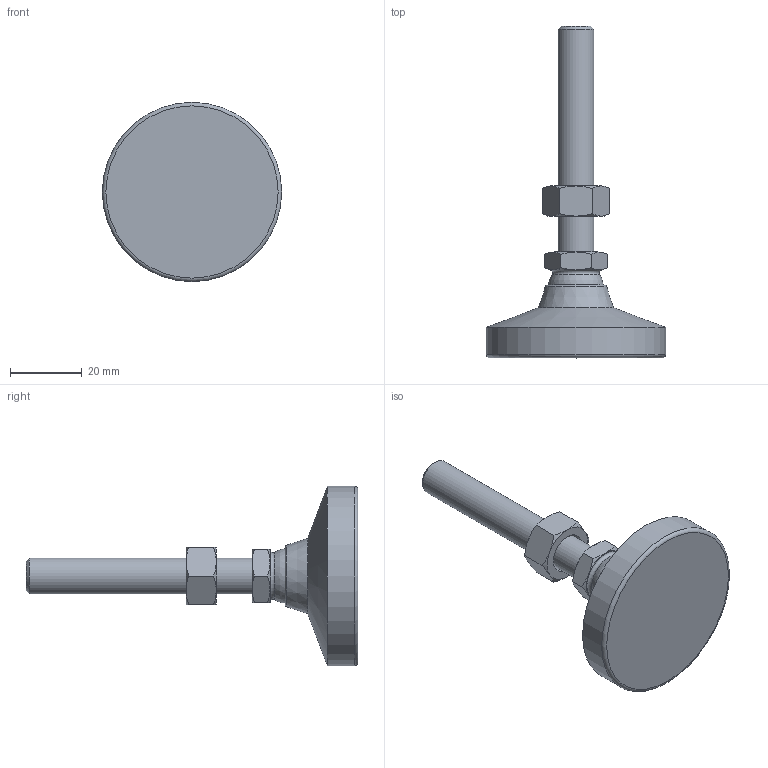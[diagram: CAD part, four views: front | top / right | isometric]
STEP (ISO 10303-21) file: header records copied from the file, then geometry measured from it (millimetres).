
FILE_DESCRIPTION( ( 'STEP AP214' ), ' ' );
FILE_NAME( 'O:/ganter_2015/teil_2/2_5/gn343_2/gn343_2_kre/Levelling foot with threaded stud GN 343.2-50-M10-63-KRE-(0).stp', '2015-10-26T09:19:28', ( '' ), ( '' ), ' ', 'PARTsolutions', ' ' );
FILE_SCHEMA( ( 'AUTOMOTIVE_DESIGN { 1 0 10303 214 1 1 1 1 }' ) );
Length unit declared in the file: millimetre
Products named in the file (4): Levelling foot with threaded stud GN 343.2-50-M10-63-KRE-(0); _Levelling foot with threaded stud GN 343.2-50-M10-63-KRE-(0)_foot; _Levelling foot with threaded stud GN 343.2-50-M10-63-KRE-(0)_screw; _Levelling foot with threaded stud GN 343.2-50-M10-63-KRE-(0)_nut
Assembly tree (3 placements, depth 2):
  Levelling foot with threaded stud GN 343.2-50-M10-63-KRE-(0)
    _Levelling foot with threaded stud GN 343.2-50-M10-63-KRE-(0)_foot
    _Levelling foot with threaded stud GN 343.2-50-M10-63-KRE-(0)_screw
    _Levelling foot with threaded stud GN 343.2-50-M10-63-KRE-(0)_nut
Bounding box: 50 x 92.5 x 50 mm (x, y, z)
Volume: 32104.2 mm3; surface area: 9854.6 mm2
Topology: 3 solids, 3 shells, 56 faces, 117 edges, 68 vertices
Faces by surface type: cone 29, plane 19, torus 3, cylinder 3, sphere 2
Full cylindrical faces by diameter (mm): 8.376 x1, 10 x1, 50 x1
Entity records: 2066 total; most frequent: CARTESIAN_POINT 498, DIRECTION 212, ORIENTED_EDGE 200, AXIS2_PLACEMENT_3D 100, EDGE_CURVE 100, EDGE_LOOP 72, VERTEX_POINT 66, FACE_OUTER_BOUND 62
